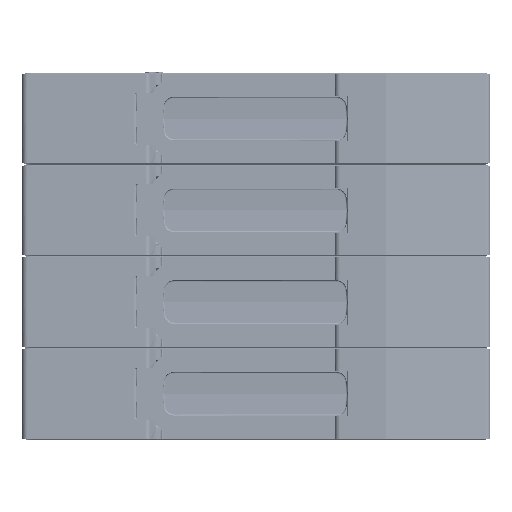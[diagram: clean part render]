
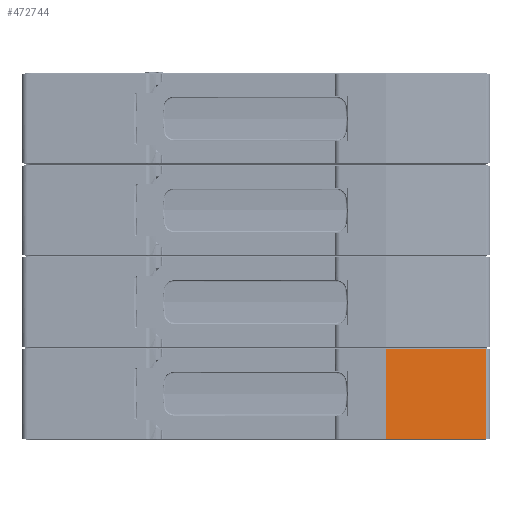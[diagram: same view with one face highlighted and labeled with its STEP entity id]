
A CAD part, front view. The second image highlights one B-rep face of the part: STEP entity #472744.
In plain terms, the highlighted planar face has unit normal (0.165, -0.986, 0).
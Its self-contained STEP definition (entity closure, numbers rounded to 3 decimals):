
#281576 = CARTESIAN_POINT ( 'NONE',  ( 21.702, -30.345, -17.4 ) ) ;
#285251 = CARTESIAN_POINT ( 'NONE',  ( 2.637, -33.535, -17.4 ) ) ;
#285261 = DIRECTION ( 'NONE',  ( 0.986, 0.165, 0. ) ) ;
#285266 = VECTOR ( 'NONE', #285261, 1000. ) ;
#285275 = CARTESIAN_POINT ( 'NONE',  ( 12.169, -31.94, -17.4 ) ) ;
#285319 = LINE ( 'NONE', #285275, #285266 ) ;
#317427 = CARTESIAN_POINT ( 'NONE',  ( 21.702, -30.345, -0.2 ) ) ;
#319242 = DIRECTION ( 'NONE',  ( 0., 0., -1. ) ) ;
#319245 = VECTOR ( 'NONE', #319242, 1000. ) ;
#319254 = CARTESIAN_POINT ( 'NONE',  ( 21.702, -30.345, -4.5 ) ) ;
#319290 = LINE ( 'NONE', #319254, #319245 ) ;
#398350 = CARTESIAN_POINT ( 'NONE',  ( 2.637, -33.535, -0.2 ) ) ;
#398829 = DIRECTION ( 'NONE',  ( 0.986, 0.165, 0. ) ) ;
#398831 = VECTOR ( 'NONE', #398829, 1000. ) ;
#398836 = CARTESIAN_POINT ( 'NONE',  ( 12.169, -31.94, -0.2 ) ) ;
#398890 = LINE ( 'NONE', #398836, #398831 ) ;
#434888 = DIRECTION ( 'NONE',  ( 0., 0., 1. ) ) ;
#434892 = VECTOR ( 'NONE', #434888, 1000. ) ;
#434937 = LINE ( 'NONE', #435039, #434892 ) ;
#435039 = CARTESIAN_POINT ( 'NONE',  ( 2.637, -33.535, -4.5 ) ) ;
#435309 = DIRECTION ( 'NONE',  ( 0.986, 0.165, 0. ) ) ;
#435312 = DIRECTION ( 'NONE',  ( 0.165, -0.986, 0. ) ) ;
#435317 = CARTESIAN_POINT ( 'NONE',  ( 2.255, -33.599, -8.972 ) ) ;
#435318 = AXIS2_PLACEMENT_3D ( 'NONE', #435317, #435312, #435309 ) ;
#435332 = PLANE ( 'NONE',  #435318 ) ;
#435457 = FACE_OUTER_BOUND ( 'NONE', #472752, .T. ) ;
#455708 = EDGE_CURVE ( 'NONE', #455713, #696694, #319290, .T. ) ;
#455713 = VERTEX_POINT ( 'NONE', #317427 ) ;
#467727 = VERTEX_POINT ( 'NONE', #398350 ) ;
#467826 = EDGE_CURVE ( 'NONE', #467727, #455713, #398890, .T. ) ;
#472669 = EDGE_CURVE ( 'NONE', #697152, #467727, #434937, .T. ) ;
#472744 = ADVANCED_FACE ( 'NONE', ( #435457 ), #435332, .T. ) ;
#472752 = EDGE_LOOP ( 'NONE', ( #472779, #472810, #472822, #472843 ) ) ;
#472779 = ORIENTED_EDGE ( 'NONE', *, *, #472669, .F. ) ;
#472810 = ORIENTED_EDGE ( 'NONE', *, *, #697145, .T. ) ;
#472822 = ORIENTED_EDGE ( 'NONE', *, *, #455708, .F. ) ;
#472843 = ORIENTED_EDGE ( 'NONE', *, *, #467826, .F. ) ;
#696694 = VERTEX_POINT ( 'NONE', #281576 ) ;
#697145 = EDGE_CURVE ( 'NONE', #697152, #696694, #285319, .T. ) ;
#697152 = VERTEX_POINT ( 'NONE', #285251 ) ;
